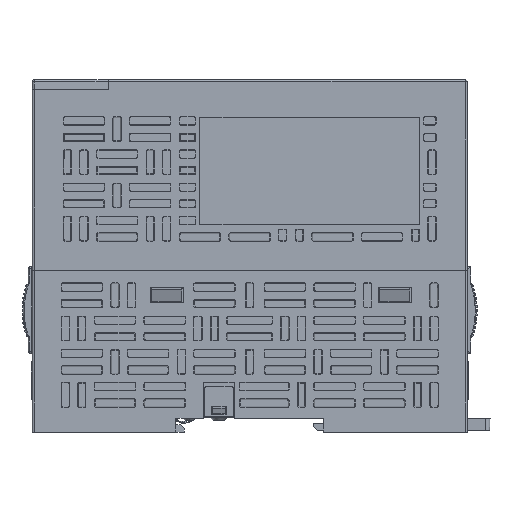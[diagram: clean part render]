
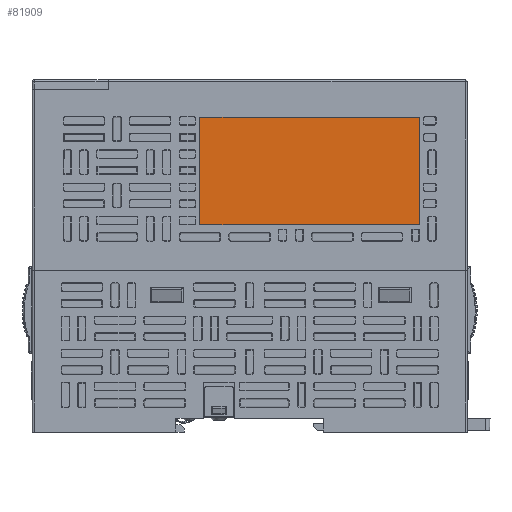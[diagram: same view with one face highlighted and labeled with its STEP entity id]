
A CAD part, left-side view. The second image highlights one B-rep face of the part: STEP entity #81909.
In plain terms, the highlighted planar face has unit normal (-1, 0, 0).
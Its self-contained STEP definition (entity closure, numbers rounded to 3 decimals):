
#58131=DIRECTION('',(0.,0.,-1.));
#58132=VECTOR('',#58131,26.);
#58133=CARTESIAN_POINT('',(-12.,12.,76.));
#58134=LINE('',#58133,#58132);
#58135=DIRECTION('',(0.,1.,0.));
#58136=VECTOR('',#58135,53.);
#58137=CARTESIAN_POINT('',(-12.,-41.,76.));
#58138=LINE('',#58137,#58136);
#58139=DIRECTION('',(0.,0.,1.));
#58140=VECTOR('',#58139,26.);
#58141=CARTESIAN_POINT('',(-12.,-41.,50.));
#58142=LINE('',#58141,#58140);
#58143=DIRECTION('',(0.,-1.,0.));
#58144=VECTOR('',#58143,53.);
#58145=CARTESIAN_POINT('',(-12.,12.,50.));
#58146=LINE('',#58145,#58144);
#74470=CARTESIAN_POINT('',(-12.,12.,76.));
#74471=CARTESIAN_POINT('',(-12.,12.,50.));
#74472=VERTEX_POINT('',#74470);
#74473=VERTEX_POINT('',#74471);
#74474=CARTESIAN_POINT('',(-12.,-41.,50.));
#74475=VERTEX_POINT('',#74474);
#74476=CARTESIAN_POINT('',(-12.,-41.,76.));
#74477=VERTEX_POINT('',#74476);
#81898=CARTESIAN_POINT('',(-12.,0.,85.));
#81899=DIRECTION('',(-1.,0.,0.));
#81900=DIRECTION('',(0.,-1.,0.));
#81901=AXIS2_PLACEMENT_3D('',#81898,#81899,#81900);
#81902=PLANE('',#81901);
#81903=ORIENTED_EDGE('',*,*,#81850,.F.);
#81904=ORIENTED_EDGE('',*,*,#81865,.F.);
#81905=ORIENTED_EDGE('',*,*,#81879,.F.);
#81906=ORIENTED_EDGE('',*,*,#81892,.F.);
#81907=EDGE_LOOP('',(#81903,#81904,#81905,#81906));
#81908=FACE_OUTER_BOUND('',#81907,.F.);
#81909=ADVANCED_FACE('',(#81908),#81902,.T.);
#81850=EDGE_CURVE('',#74472,#74473,#58134,.T.);
#81865=EDGE_CURVE('',#74477,#74472,#58138,.T.);
#81879=EDGE_CURVE('',#74475,#74477,#58142,.T.);
#81892=EDGE_CURVE('',#74473,#74475,#58146,.T.);
